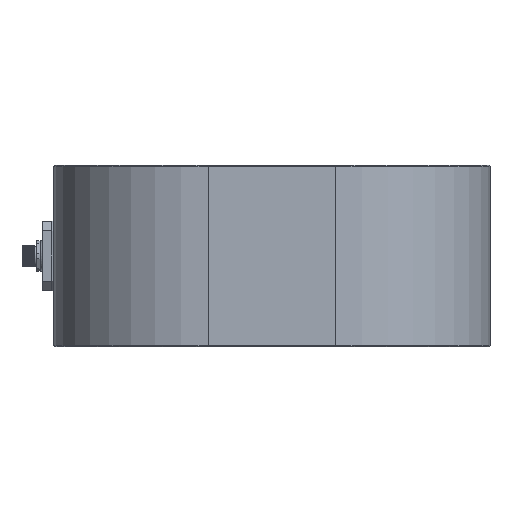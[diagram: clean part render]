
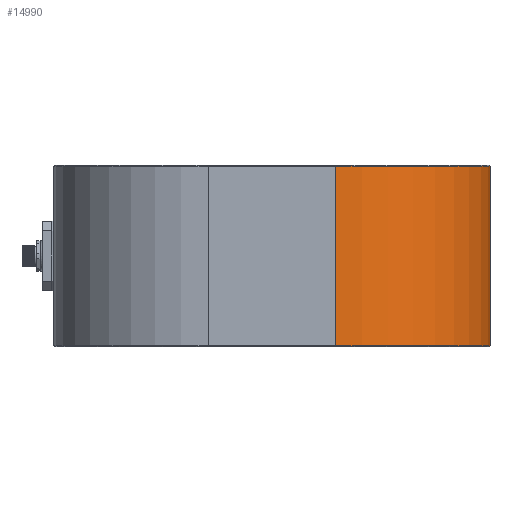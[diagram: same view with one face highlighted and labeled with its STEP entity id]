
A CAD part, left-side view. The second image highlights one B-rep face of the part: STEP entity #14990.
In plain terms, the highlighted cylindrical face has radius 85 mm (diameter 170 mm), a partial arc.
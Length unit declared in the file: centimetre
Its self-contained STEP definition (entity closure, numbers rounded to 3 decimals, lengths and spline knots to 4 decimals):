
#2834=CYLINDRICAL_SURFACE('',#15936,8.5);
#3025=VECTOR('',#17275,1.);
#3026=VECTOR('',#17278,1.);
#4225=LINE('',#20484,#3025);
#4226=LINE('',#20486,#3026);
#5812=VERTEX_POINT('',#20449);
#5813=VERTEX_POINT('',#20453);
#5818=VERTEX_POINT('',#20468);
#5819=VERTEX_POINT('',#20472);
#6987=CIRCLE('',#15927,8.5);
#6988=CIRCLE('',#15931,8.5);
#7357=EDGE_CURVE('',#5813,#5812,#6987,.T.);
#7367=EDGE_CURVE('',#5819,#5818,#6988,.T.);
#7374=EDGE_CURVE('',#5813,#5818,#4225,.T.);
#7375=EDGE_CURVE('',#5819,#5812,#4226,.T.);
#9329=ORIENTED_EDGE('',*,*,#7357,.F.);
#9330=ORIENTED_EDGE('',*,*,#7374,.T.);
#9331=ORIENTED_EDGE('',*,*,#7367,.F.);
#9332=ORIENTED_EDGE('',*,*,#7375,.T.);
#12828=EDGE_LOOP('',(#9329,#9330,#9331,#9332));
#13954=FACE_BOUND('',#12828,.T.);
#14990=ADVANCED_FACE('',(#13954),#2834,.T.);
#15927=AXIS2_PLACEMENT_3D('',#20454,#17247,#17248);
#15931=AXIS2_PLACEMENT_3D('',#20473,#17262,#17263);
#15936=AXIS2_PLACEMENT_3D('',#20485,#17276,#17277);
#17247=DIRECTION('',(0.,0.,-1.));
#17248=DIRECTION('',(-6.01,-6.01,0.));
#17262=DIRECTION('',(0.,0.,1.));
#17263=DIRECTION('',(-6.01,-6.01,0.));
#17275=DIRECTION('',(0.,0.,1.));
#17276=DIRECTION('',(0.,0.,1.));
#17277=DIRECTION('',(-6.01,-6.01,0.));
#17278=DIRECTION('',(0.,0.,-1.));
#20449=CARTESIAN_POINT('',(-32.5,-3.5,-4.95));
#20453=CARTESIAN_POINT('',(-24.,-12.,-4.95));
#20454=CARTESIAN_POINT('',(-24.,-3.5,-4.95));
#20468=CARTESIAN_POINT('',(-24.,-12.,4.95));
#20472=CARTESIAN_POINT('',(-32.5,-3.5,4.95));
#20473=CARTESIAN_POINT('',(-24.,-3.5,4.95));
#20484=CARTESIAN_POINT('',(-24.,-12.,-5.));
#20485=CARTESIAN_POINT('',(-24.,-3.5,-5.));
#20486=CARTESIAN_POINT('',(-32.5,-3.5,-5.));
